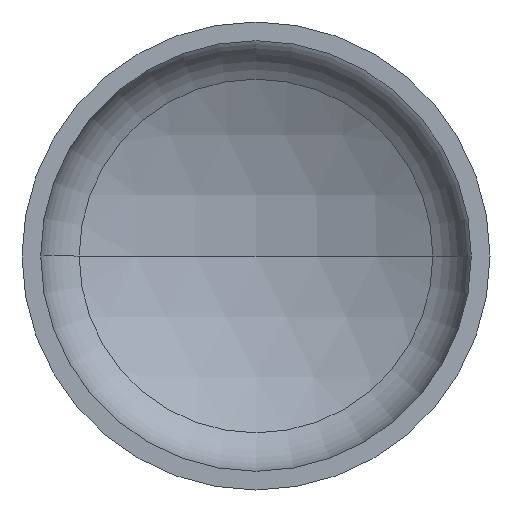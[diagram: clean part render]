
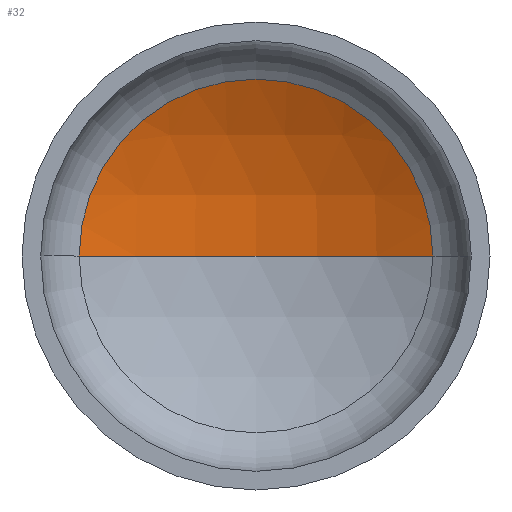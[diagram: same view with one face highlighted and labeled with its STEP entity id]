
A CAD part, front view. The second image highlights one B-rep face of the part: STEP entity #32.
In plain terms, the highlighted spherical face has radius 720 mm.
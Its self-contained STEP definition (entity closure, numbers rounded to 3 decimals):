
#6 = VERTEX_POINT ( 'NONE', #375 ) ;
#15 = EDGE_LOOP ( 'NONE', ( #31, #21, #122 ) ) ;
#19 = AXIS2_PLACEMENT_3D ( 'NONE', #192, #363, #143 ) ;
#21 = ORIENTED_EDGE ( 'NONE', *, *, #340, .T. ) ;
#22 = AXIS2_PLACEMENT_3D ( 'NONE', #166, #402, #333 ) ;
#26 = AXIS2_PLACEMENT_3D ( 'NONE', #171, #150, #305 ) ;
#31 = ORIENTED_EDGE ( 'NONE', *, *, #352, .F. ) ;
#32 = ADVANCED_FACE ( 'NONE', ( #133 ), #368, .F. ) ;
#91 = AXIS2_PLACEMENT_3D ( 'NONE', #290, #251, #237 ) ;
#114 = VERTEX_POINT ( 'NONE', #321 ) ;
#122 = ORIENTED_EDGE ( 'NONE', *, *, #325, .T. ) ;
#127 = VERTEX_POINT ( 'NONE', #312 ) ;
#133 = FACE_OUTER_BOUND ( 'NONE', #15, .T. ) ;
#143 = DIRECTION ( 'NONE',  ( -1., 0., 0. ) ) ;
#150 = DIRECTION ( 'NONE',  ( 0., -1., 0. ) ) ;
#166 = CARTESIAN_POINT ( 'NONE',  ( 0., -401.199, 0. ) ) ;
#171 = CARTESIAN_POINT ( 'NONE',  ( 0., 233.393, 0. ) ) ;
#172 = CIRCLE ( 'NONE', #19, 720. ) ;
#177 = CIRCLE ( 'NONE', #26, 340.138 ) ;
#192 = CARTESIAN_POINT ( 'NONE',  ( 0., -401.199, 0. ) ) ;
#237 = DIRECTION ( 'NONE',  ( -1., 0., 0. ) ) ;
#251 = DIRECTION ( 'NONE',  ( 0., 0., -1. ) ) ;
#287 = CIRCLE ( 'NONE', #22, 720. ) ;
#290 = CARTESIAN_POINT ( 'NONE',  ( 0., -401.199, 0. ) ) ;
#305 = DIRECTION ( 'NONE',  ( 1., 0., 0. ) ) ;
#312 = CARTESIAN_POINT ( 'NONE',  ( 0., 318.801, 0. ) ) ;
#321 = CARTESIAN_POINT ( 'NONE',  ( -340.138, 233.393, 0. ) ) ;
#325 = EDGE_CURVE ( 'NONE', #6, #114, #177, .T. ) ;
#333 = DIRECTION ( 'NONE',  ( 1., 0., 0. ) ) ;
#340 = EDGE_CURVE ( 'NONE', #127, #6, #172, .T. ) ;
#352 = EDGE_CURVE ( 'NONE', #127, #114, #287, .T. ) ;
#363 = DIRECTION ( 'NONE',  ( 0., 0., -1. ) ) ;
#368 = SPHERICAL_SURFACE ( 'NONE', #91, 720. ) ;
#375 = CARTESIAN_POINT ( 'NONE',  ( 340.138, 233.393, 0. ) ) ;
#402 = DIRECTION ( 'NONE',  ( 0., 0., 1. ) ) ;
